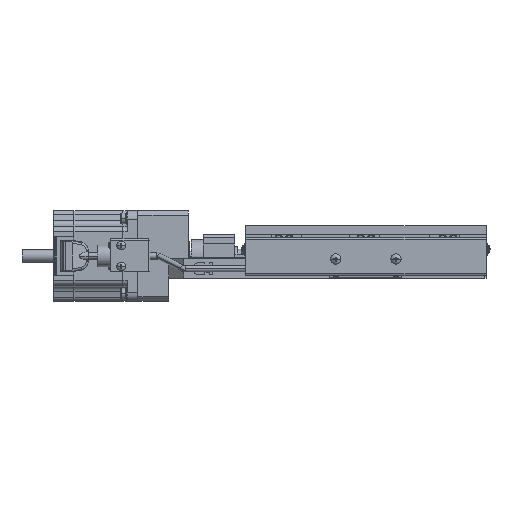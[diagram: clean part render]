
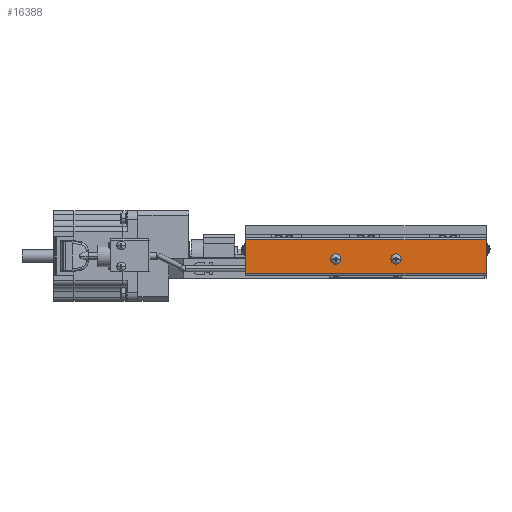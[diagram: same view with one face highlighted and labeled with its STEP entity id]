
A CAD part, front view. The second image highlights one B-rep face of the part: STEP entity #16388.
In plain terms, the highlighted planar face has unit normal (0, -1, 0).
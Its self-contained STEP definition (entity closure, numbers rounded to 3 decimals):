
#1830 = ORIENTED_EDGE ( 'NONE', *, *, #47248, .F. ) ;
#4400 = VERTEX_POINT ( 'NONE', #31175 ) ;
#5257 = VERTEX_POINT ( 'NONE', #15717 ) ;
#5627 = VERTEX_POINT ( 'NONE', #14870 ) ;
#7052 = DIRECTION ( 'NONE',  ( 1., 0., 0. ) ) ;
#8286 = VERTEX_POINT ( 'NONE', #26296 ) ;
#8563 = DIRECTION ( 'NONE',  ( 0., -1., 0. ) ) ;
#9809 = EDGE_CURVE ( 'NONE', #31105, #39828, #12618, .T. ) ;
#10349 = DIRECTION ( 'NONE',  ( 1., 0., 0. ) ) ;
#12618 = CIRCLE ( 'NONE', #21554, 3.45 ) ;
#13783 = EDGE_CURVE ( 'NONE', #5257, #4400, #34891, .T. ) ;
#13995 = DIRECTION ( 'NONE',  ( 1., 0., 0. ) ) ;
#14183 = VECTOR ( 'NONE', #31952, 1000. ) ;
#14870 = CARTESIAN_POINT ( 'NONE',  ( 51.681, -236.094, 271.762 ) ) ;
#15405 = LINE ( 'NONE', #44327, #23858 ) ;
#15717 = CARTESIAN_POINT ( 'NONE',  ( 115.131, -236.094, 281.562 ) ) ;
#16388 = ADVANCED_FACE ( 'NONE', ( #47827, #69628, #43627 ), #32060, .T. ) ;
#21483 = CARTESIAN_POINT ( 'NONE',  ( 211.681, -236.094, 270.562 ) ) ;
#21554 = AXIS2_PLACEMENT_3D ( 'NONE', #24854, #8563, #30277 ) ;
#22452 = ORIENTED_EDGE ( 'NONE', *, *, #55817, .T. ) ;
#23858 = VECTOR ( 'NONE', #33729, 1000. ) ;
#24854 = CARTESIAN_POINT ( 'NONE',  ( 151.681, -236.094, 281.562 ) ) ;
#26296 = CARTESIAN_POINT ( 'NONE',  ( 211.681, -236.094, 271.762 ) ) ;
#27107 = CARTESIAN_POINT ( 'NONE',  ( 211.681, -236.094, 270.562 ) ) ;
#28527 = LINE ( 'NONE', #53805, #14183 ) ;
#28996 = DIRECTION ( 'NONE',  ( 0., -1., 0. ) ) ;
#29207 = CARTESIAN_POINT ( 'NONE',  ( 151.681, -236.094, 281.562 ) ) ;
#29800 = VECTOR ( 'NONE', #32536, 1000. ) ;
#29930 = EDGE_CURVE ( 'NONE', #37503, #65011, #28527, .T. ) ;
#29970 = EDGE_CURVE ( 'NONE', #5627, #65011, #47942, .T. ) ;
#30277 = DIRECTION ( 'NONE',  ( 1., 0., 0. ) ) ;
#30284 = CARTESIAN_POINT ( 'NONE',  ( 111.681, -236.094, 281.562 ) ) ;
#30811 = AXIS2_PLACEMENT_3D ( 'NONE', #30284, #34766, #13995 ) ;
#31105 = VERTEX_POINT ( 'NONE', #48854 ) ;
#31175 = CARTESIAN_POINT ( 'NONE',  ( 108.231, -236.094, 281.562 ) ) ;
#31952 = DIRECTION ( 'NONE',  ( -1., 0., 0. ) ) ;
#32060 = PLANE ( 'NONE',  #39474 ) ;
#32536 = DIRECTION ( 'NONE',  ( 0., 0., 1. ) ) ;
#33597 = VECTOR ( 'NONE', #37381, 1000. ) ;
#33729 = DIRECTION ( 'NONE',  ( 1., 0., 0. ) ) ;
#34766 = DIRECTION ( 'NONE',  ( 0., -1., 0. ) ) ;
#34891 = CIRCLE ( 'NONE', #39768, 3.45 ) ;
#37381 = DIRECTION ( 'NONE',  ( 0., 0., 1. ) ) ;
#37503 = VERTEX_POINT ( 'NONE', #54283 ) ;
#38476 = ORIENTED_EDGE ( 'NONE', *, *, #29970, .F. ) ;
#39384 = DIRECTION ( 'NONE',  ( 0., -1., 0. ) ) ;
#39474 = AXIS2_PLACEMENT_3D ( 'NONE', #21483, #42669, #10349 ) ;
#39768 = AXIS2_PLACEMENT_3D ( 'NONE', #54900, #28996, #66633 ) ;
#39828 = VERTEX_POINT ( 'NONE', #58086 ) ;
#42669 = DIRECTION ( 'NONE',  ( 0., -1., 0. ) ) ;
#43627 = FACE_OUTER_BOUND ( 'NONE', #56412, .T. ) ;
#43842 = ORIENTED_EDGE ( 'NONE', *, *, #13783, .F. ) ;
#44327 = CARTESIAN_POINT ( 'NONE',  ( 211.681, -236.094, 271.762 ) ) ;
#44417 = ORIENTED_EDGE ( 'NONE', *, *, #66970, .F. ) ;
#44590 = ORIENTED_EDGE ( 'NONE', *, *, #44772, .T. ) ;
#44772 = EDGE_CURVE ( 'NONE', #5627, #8286, #15405, .T. ) ;
#47248 = EDGE_CURVE ( 'NONE', #39828, #31105, #52099, .T. ) ;
#47615 = EDGE_LOOP ( 'NONE', ( #1830, #63052 ) ) ;
#47827 = FACE_BOUND ( 'NONE', #58245, .T. ) ;
#47942 = LINE ( 'NONE', #54038, #33597 ) ;
#48854 = CARTESIAN_POINT ( 'NONE',  ( 148.231, -236.094, 281.562 ) ) ;
#52099 = CIRCLE ( 'NONE', #53478, 3.45 ) ;
#53478 = AXIS2_PLACEMENT_3D ( 'NONE', #29207, #39384, #7052 ) ;
#53805 = CARTESIAN_POINT ( 'NONE',  ( 211.681, -236.094, 294.362 ) ) ;
#54038 = CARTESIAN_POINT ( 'NONE',  ( 51.681, -236.094, 270.562 ) ) ;
#54283 = CARTESIAN_POINT ( 'NONE',  ( 211.681, -236.094, 294.362 ) ) ;
#54900 = CARTESIAN_POINT ( 'NONE',  ( 111.681, -236.094, 281.562 ) ) ;
#55817 = EDGE_CURVE ( 'NONE', #8286, #37503, #65981, .T. ) ;
#56412 = EDGE_LOOP ( 'NONE', ( #38476, #44590, #22452, #58191 ) ) ;
#58086 = CARTESIAN_POINT ( 'NONE',  ( 155.131, -236.094, 281.562 ) ) ;
#58191 = ORIENTED_EDGE ( 'NONE', *, *, #29930, .T. ) ;
#58245 = EDGE_LOOP ( 'NONE', ( #43842, #44417 ) ) ;
#63052 = ORIENTED_EDGE ( 'NONE', *, *, #9809, .F. ) ;
#64074 = CIRCLE ( 'NONE', #30811, 3.45 ) ;
#65011 = VERTEX_POINT ( 'NONE', #68784 ) ;
#65981 = LINE ( 'NONE', #27107, #29800 ) ;
#66633 = DIRECTION ( 'NONE',  ( 1., 0., 0. ) ) ;
#66970 = EDGE_CURVE ( 'NONE', #4400, #5257, #64074, .T. ) ;
#68784 = CARTESIAN_POINT ( 'NONE',  ( 51.681, -236.094, 294.362 ) ) ;
#69628 = FACE_BOUND ( 'NONE', #47615, .T. ) ;
